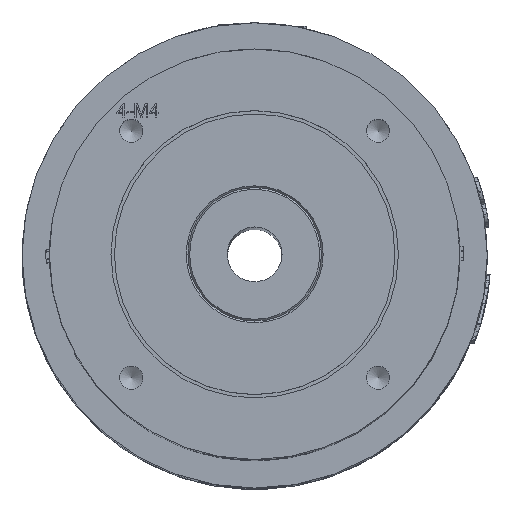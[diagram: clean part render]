
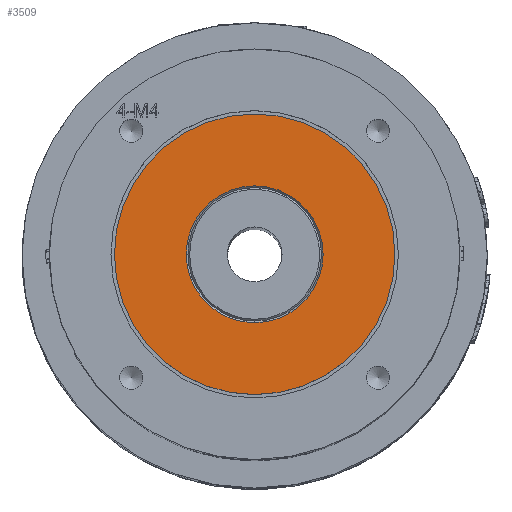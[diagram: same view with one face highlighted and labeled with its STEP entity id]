
A CAD part, top view. The second image highlights one B-rep face of the part: STEP entity #3509.
In plain terms, the highlighted planar face has unit normal (0, 0, 1).
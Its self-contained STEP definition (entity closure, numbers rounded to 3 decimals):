
#324=FACE_BOUND('',#8225,.T.);
#325=FACE_BOUND('',#8226,.T.);
#1055=CIRCLE('',#26895,10.);
#1056=CIRCLE('',#26896,20.5);
#1845=PLANE('',#26897);
#3509=ADVANCED_FACE('',(#324,#325),#1845,.F.);
#8225=EDGE_LOOP('',(#12579));
#8226=EDGE_LOOP('',(#12580));
#12579=ORIENTED_EDGE('',*,*,#21816,.T.);
#12580=ORIENTED_EDGE('',*,*,#21817,.F.);
#18399=VERTEX_POINT('',#47451);
#18400=VERTEX_POINT('',#47453);
#21816=EDGE_CURVE('',#18399,#18399,#1055,.T.);
#21817=EDGE_CURVE('',#18400,#18400,#1056,.T.);
#26895=AXIS2_PLACEMENT_3D('',#47450,#29553,#29554);
#26896=AXIS2_PLACEMENT_3D('',#47452,#29555,#29556);
#26897=AXIS2_PLACEMENT_3D('',#47454,#29557,#29558);
#29553=DIRECTION('',(0.,0.,-1.));
#29554=DIRECTION('',(-1.,0.,0.));
#29555=DIRECTION('',(0.,0.,-1.));
#29556=DIRECTION('',(-1.,0.,0.));
#29557=DIRECTION('',(0.,0.,-1.));
#29558=DIRECTION('',(-1.,0.,0.));
#47450=CARTESIAN_POINT('',(0.,0.,222.5));
#47451=CARTESIAN_POINT('',(-10.,0.,222.5));
#47452=CARTESIAN_POINT('',(0.,0.,222.5));
#47453=CARTESIAN_POINT('',(-20.5,0.,222.5));
#47454=CARTESIAN_POINT('',(0.,0.,222.5));
